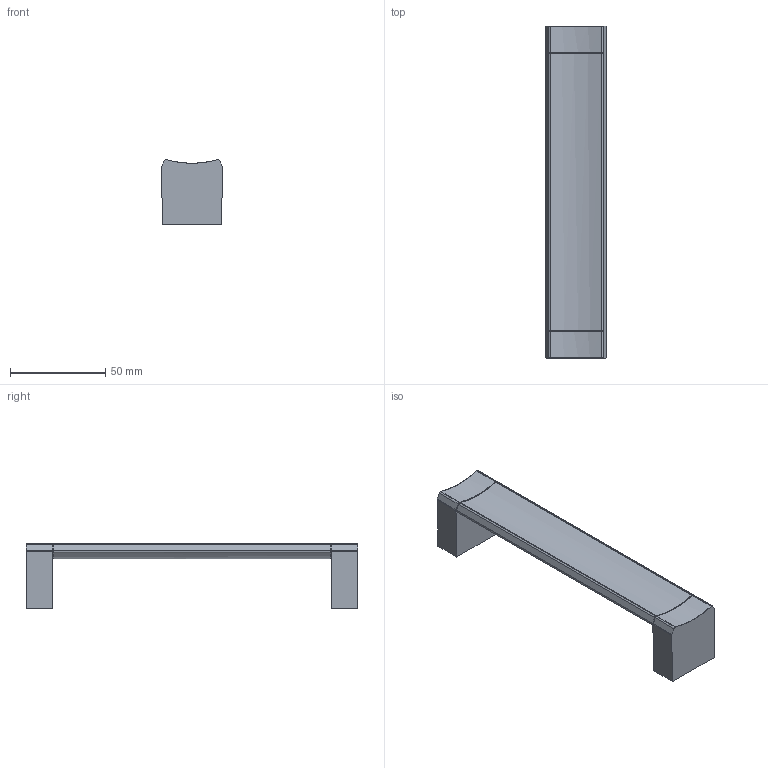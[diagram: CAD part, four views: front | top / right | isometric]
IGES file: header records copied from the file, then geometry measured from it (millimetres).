
Start section: C
Global section: file name: 0093-170.igs; native system: By Siemens PLM Incorporated; preprocessor: XPlus GENERIC/IGES 16.0.42; author: Author; organization: Title; date: 20260104.152424; units: millimetre
Bounding box: 32 x 174 x 34 mm (x, y, z)
Surface area: 24618.2 mm2 (no closed solid volume)
Topology: 0 solids, 0 shells, 92 faces, 504 edges, 504 vertices
Faces by surface type: bspline 92
